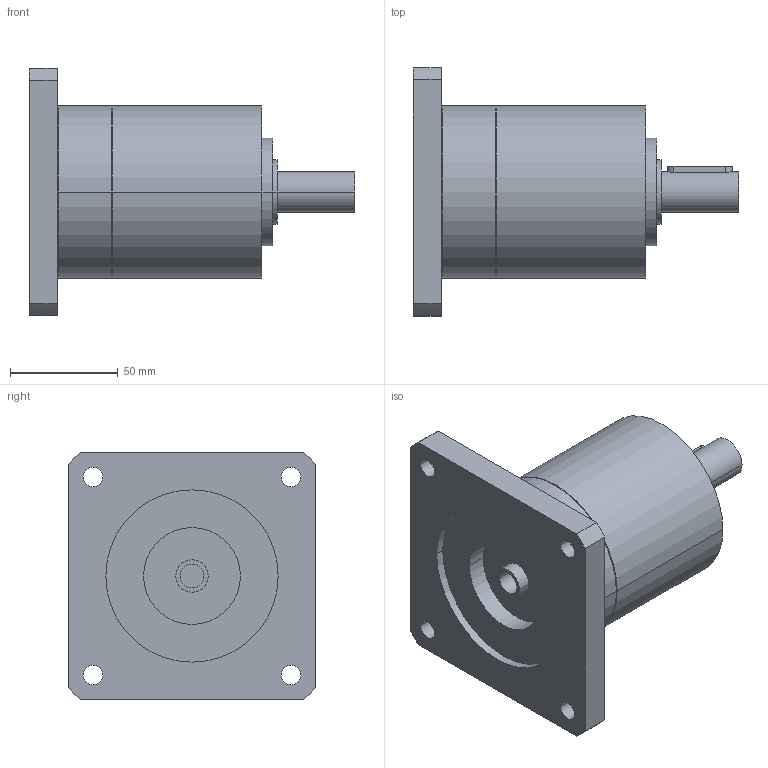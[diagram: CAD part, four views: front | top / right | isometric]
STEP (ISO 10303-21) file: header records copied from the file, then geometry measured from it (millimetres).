
FILE_DESCRIPTION(('CoCreate Modeling STEP Export'),'2;1');
FILE_NAME('GPR100_ig-3-4-5-6_19_B14_11_P30.stp','2014-08-26T10:01:57',(''),(''),'CoCreate Modeling STEP processor for AP214 (Solid Model)','CoCreate Modeling 16.00C 25-Feb-2009 (C) Parametric Technology GmbH','');
FILE_SCHEMA(('AUTOMOTIVE_DESIGN { 1 0 10303 214 1 1 1 1 }'));
Length unit declared in the file: millimetre
Products named in the file (2): GPR100_ig-3-4-5-6_19_B14_11_P30
Assembly tree (1 placements, depth 2):
  GPR100_ig-3-4-5-6_19_B14_11_P30
    GPR100_ig-3-4-5-6_19_B14_11_P30
Bounding box: 151 x 115 x 115 mm (x, y, z)
Volume: 629621 mm3; surface area: 65370.4 mm2
Topology: 1 solids, 1 shells, 70 faces, 182 edges, 126 vertices
Faces by surface type: cylinder 42, plane 22, cone 6
Entity records: 1909 total; most frequent: ORIENTED_EDGE 360, CARTESIAN_POINT 354, DIRECTION 262, EDGE_CURVE 180, VERTEX_POINT 126, AXIS2_PLACEMENT_3D 98, EDGE_LOOP 92, FACE_OUTER_BOUND 70
